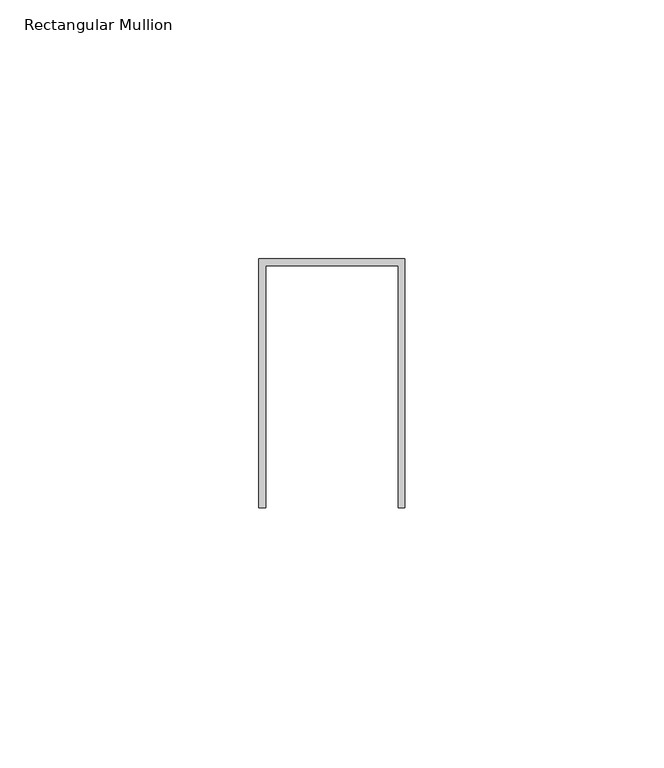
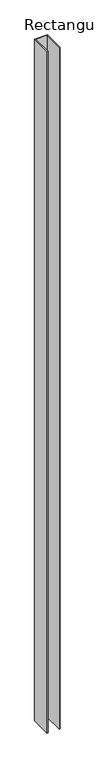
"""IFC4 building model written with IfcOpenShell, lengths in millimetres: member geometry, Rectangular Mullion : Danpal_NM_InetrnalV-Mullion."""

import ifcopenshell
import ifcopenshell.guid

model = None  # the IFC model being written
_history = None  # IfcOwnerHistory: only IFC2X3 demands one
_inside = {}  # id of a spatial element -> (the spatial element, [elements in it])
_under = {}  # id of a project, library or spatial element -> (it, [spatial elements below it])
_declared = {}  # id of a project -> (the project, [libraries it declares])
_typed = {}  # id of a type object -> (the type object, [elements of that type])
_made_of = {}  # id of a material, layer set ... -> (it, [elements and type objects made of it])


def new_model(schema):
    """Start an empty IFC model of exactly this schema.

    Asked for "IFC4X3", IfcOpenShell would pick the latest addendum, in which some entities
    have other attributes; the version numbers below select the first issue.
    IFC2X3 requires an IfcOwnerHistory on every rooted entity: one is made here for all.
    """
    global model, _history
    if schema == "IFC4X3":
        model = ifcopenshell.file(schema_version=(4, 3, 0, 0))
    else:
        model = ifcopenshell.file(schema=schema)
    _inside.clear()
    _under.clear()
    _declared.clear()
    _typed.clear()
    _made_of.clear()
    _history = None
    if model.schema == "IFC2X3":
        org = make("IfcOrganization", Name="unknown")
        user = make(
            "IfcPersonAndOrganization",
            ThePerson=make("IfcPerson", FamilyName="unknown"),
            TheOrganization=org,
        )
        app = make(
            "IfcApplication",
            ApplicationDeveloper=org,
            Version="unknown",
            ApplicationFullName="unknown",
            ApplicationIdentifier="unknown",
        )
        _history = make(
            "IfcOwnerHistory",
            OwningUser=user,
            OwningApplication=app,
            ChangeAction="ADDED",
            CreationDate=0,
        )
    return model


def make(cls, **values):
    """One entity of the class cls with the attributes given. An attribute that is None is left unset."""
    return model.create_entity(
        cls, **{name: value for name, value in values.items() if value is not None}
    )


def rooted(cls, **values):
    """An entity with a GlobalId (a new one), such as an element, a storey or a relation."""
    return make(cls, GlobalId=ifcopenshell.guid.new(), OwnerHistory=_history, **values)


def si_unit(unit_type, name, prefix=None):
    """IfcSIUnit, for example si_unit("LENGTHUNIT", "METRE", prefix="MILLI")."""
    return make("IfcSIUnit", UnitType=unit_type, Prefix=prefix, Name=name)


def assignment(units):
    """IfcUnitAssignment: the units of a project."""
    return None if units is None else make("IfcUnitAssignment", Units=units)


def point(xyz):
    """IfcCartesianPoint."""
    return None if xyz is None else make("IfcCartesianPoint", Coordinates=xyz)


def direction(xyz):
    """IfcDirection."""
    return None if xyz is None else make("IfcDirection", DirectionRatios=xyz)


def frame(location, z_axis=None, x_axis=None):
    """IfcAxis2Placement3D, a coordinate frame: its origin and axes. An axis left out is left unset."""
    return make(
        "IfcAxis2Placement3D",
        Location=point(location),
        Axis=direction(z_axis),
        RefDirection=direction(x_axis),
    )


def origin():
    """The frame at (0, 0, 0) with its axes left unset."""
    return frame((0.0, 0.0, 0.0))


def place(relative_to, where):
    """IfcLocalPlacement: puts the frame where relative to a parent placement (None: the world)."""
    return make(
        "IfcLocalPlacement", PlacementRelTo=relative_to, RelativePlacement=where
    )


def context(
    kind, dimensions, precision=None, world=None, true_north=None, identifier=None
):
    """IfcGeometricRepresentationContext, for example the 3D "Model" context."""
    return make(
        "IfcGeometricRepresentationContext",
        ContextIdentifier=identifier,
        ContextType=kind,
        CoordinateSpaceDimension=dimensions,
        Precision=precision,
        WorldCoordinateSystem=world,
        TrueNorth=true_north,
    )


def project(units=None, contexts=None):
    """IfcProject with its units and contexts."""
    return rooted(
        "IfcProject",
        Name="project",
        RepresentationContexts=contexts,
        UnitsInContext=assignment(units),
    )


def spatial(cls, under=None, at=None, **own):
    """A site, building, storey or space (cls), placed at a placement, below another one or the project."""
    s = rooted(cls, ObjectPlacement=at, **own)
    if under is not None:
        _under.setdefault(under.id(), (under, []))[1].append(s)
    return s


def polyline(points):
    """IfcPolyline through the points."""
    return make("IfcPolyline", Points=[point(p) for p in points])


def outline(outer, holes=None, kind="AREA"):
    """IfcArbitraryClosedProfileDef: a profile drawn as a closed curve; with holes, ...WithVoids."""
    if holes is None:
        return make("IfcArbitraryClosedProfileDef", ProfileType=kind, OuterCurve=outer)
    return make(
        "IfcArbitraryProfileDefWithVoids",
        ProfileType=kind,
        OuterCurve=outer,
        InnerCurves=holes,
    )


def extrude(swept, where, along, depth):
    """IfcExtrudedAreaSolid: the profile swept, set in the frame where, extruded along a direction by depth."""
    return make(
        "IfcExtrudedAreaSolid",
        SweptArea=swept,
        Position=where,
        ExtrudedDirection=direction(along),
        Depth=depth,
    )


def shape(context_of_items, identifier, shape_type, items):
    """IfcShapeRepresentation: the items that make up one representation, for example the "Body"."""
    return make(
        "IfcShapeRepresentation",
        ContextOfItems=context_of_items,
        RepresentationIdentifier=identifier,
        RepresentationType=shape_type,
        Items=items,
    )


def source(mapping_origin, context_of_items, identifier, shape_type, items):
    """IfcRepresentationMap: a shape defined once, which mapped items show again and again."""
    return make(
        "IfcRepresentationMap",
        MappingOrigin=mapping_origin,
        MappedRepresentation=shape(context_of_items, identifier, shape_type, items),
    )


def transform(
    local_origin,
    x_axis=None,
    y_axis=None,
    z_axis=None,
    scale=None,
    scale2=None,
    scale3=None,
    uniform=True,
):
    """IfcCartesianTransformationOperator3D, or its non-uniform kind. x_axis, y_axis, z_axis: its Axis1, 2, 3."""
    if uniform:
        return make(
            "IfcCartesianTransformationOperator3D",
            Axis1=direction(x_axis),
            Axis2=direction(y_axis),
            LocalOrigin=point(local_origin),
            Scale=scale,
            Axis3=direction(z_axis),
        )
    return make(
        "IfcCartesianTransformationOperator3DnonUniform",
        Axis1=direction(x_axis),
        Axis2=direction(y_axis),
        LocalOrigin=point(local_origin),
        Scale=scale,
        Axis3=direction(z_axis),
        Scale2=scale2,
        Scale3=scale3,
    )


def mapped(mapping_source, mapping_target):
    """IfcMappedItem: shows the shape of a source again, moved by a transform."""
    return make(
        "IfcMappedItem", MappingSource=mapping_source, MappingTarget=mapping_target
    )


def made_of(thing, what):
    """Note that an element or type object is made of a material, layer set ...; save() writes the relation."""
    if what is not None:
        _made_of.setdefault(what.id(), (what, []))[1].append(thing)
    return thing


def element(
    cls,
    number,
    at=None,
    inside=None,
    cuts=None,
    type_object=None,
    material=None,
    context=None,
    identifier="Body",
    shape_type=None,
    held_by="IfcProductDefinitionShape",
    body=None,
    shapes=None,
    **own,
):
    """One element of the class cls, such as IfcWall. Its Tag is "e" and its number.

    at: its placement. inside: the storey or other place that contains it. cuts: it is an
    opening in that element (IfcRelVoidsElement). A single representation is given by context,
    identifier, shape_type and body (its items); several are given by shapes. held_by: the class
    of the entity that holds the representations. save() writes the other relations.
    """
    e = rooted(cls, Tag="e%d" % number, ObjectPlacement=at, **own)
    if body is not None:
        shapes = [shape(context, identifier, shape_type, body)]
    if shapes is not None:
        e.Representation = make(held_by, Representations=shapes)
    if inside is not None:
        _inside.setdefault(inside.id(), (inside, []))[1].append(e)
    if cuts is not None:
        rooted(
            "IfcRelVoidsElement", RelatingBuildingElement=cuts, RelatedOpeningElement=e
        )
    if type_object is not None:
        _typed.setdefault(type_object.id(), (type_object, []))[1].append(e)
    return made_of(e, material)


def aggregate(whole, parts):
    """IfcRelAggregates: a whole, such as a stair, and the parts it consists of."""
    return rooted("IfcRelAggregates", RelatingObject=whole, RelatedObjects=parts)


def save(model, path):
    """Write the relations noted so far, then the file.

    IfcRelAggregates (storeys below a building ...), IfcRelContainedInSpatialStructure (elements
    in a storey), IfcRelDefinesByType, IfcRelAssociatesMaterial and IfcRelDeclares: one each for
    every whole, place, type object, material and project.
    """
    for whole, parts in _under.values():
        aggregate(whole, parts)
    for where, things in _inside.values():
        rooted(
            "IfcRelContainedInSpatialStructure",
            RelatedElements=things,
            RelatingStructure=where,
        )
    for kind, things in _typed.values():
        rooted("IfcRelDefinesByType", RelatedObjects=things, RelatingType=kind)
    for what, things in _made_of.values():
        rooted("IfcRelAssociatesMaterial", RelatedObjects=things, RelatingMaterial=what)
    for by, libraries in _declared.values():
        rooted("IfcRelDeclares", RelatingContext=by, RelatedDefinitions=libraries)
    model.write(path)


def rectangular_mullion_367668c4(model_context):
    return source(origin(), model_context, "Body", "SweptSolid", [
        extrude(outline(polyline([(12.3125928, 60.8367315), (-13.3125928, 60.8367315), (-13.3125928, 14.0043433), (-14.6380334, 14.0043036), (-14.6380334, 62.1621721), (13.6380334, 62.1621721), (13.6380334, 14.0044958), (12.3125928, 14.0044958), (12.3125928, 60.8367315)])), frame((0.0, 0.0, -1602.963783), z_axis=(0.0, 0.0, 1.0), x_axis=(1.0, 0.0, 0.0)), (0.0, 0.0, 1.0), 1602.963783),
    ])


if __name__ == "__main__":
    model = new_model("IFC4")
    model_context = context("Model", 3, world=origin())
    ifc_project = project(units=[si_unit("LENGTHUNIT", "METRE", prefix="MILLI")], contexts=[model_context])
    site = spatial("IfcSite", under=ifc_project)
    building = spatial("IfcBuilding", under=site)
    placement = place(None, origin())
    rectangular_mullion_shape = rectangular_mullion_367668c4(model_context)
    element("IfcMember", 1, ObjectType="Rectangular Mullion : Danpal_NM_InetrnalV-Mullion", at=placement, inside=building, context=model_context, shape_type="MappedRepresentation", body=[
        mapped(rectangular_mullion_shape, transform((0.0, 0.0, 0.0), x_axis=(1.0, 0.0, 0.0), y_axis=(0.0, 1.0, 0.0), z_axis=(0.0, 0.0, 1.0))),
    ])
    save(model, "model.ifc")
